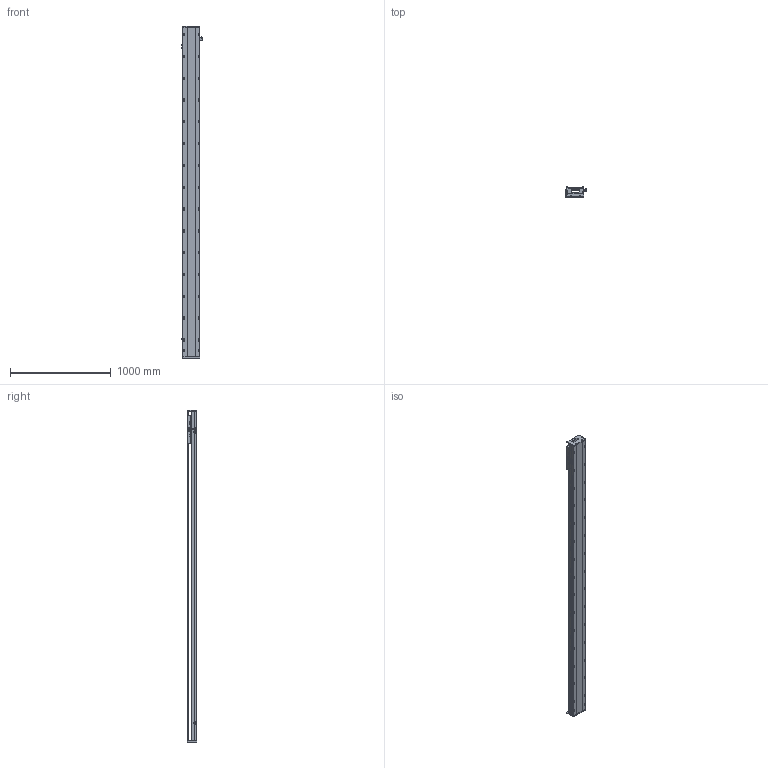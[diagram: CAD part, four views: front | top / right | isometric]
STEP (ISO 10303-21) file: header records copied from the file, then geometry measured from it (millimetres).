
FILE_DESCRIPTION (( 'STEP AP203' ), '1' );
FILE_NAME ('SKR17S-C2-S2908（简）.STEP', '2022-09-29T08:32:05', ( '' ), ( '' ), 'SwSTEP 2.0', 'SolidWorks 2018', '' );
FILE_SCHEMA (( 'CONFIG_CONTROL_DESIGN' ));
Length unit declared in the file: millimetre
Products named in the file (8): SKR17耜啣; EE-SX672; SKR17滑台-280L（简）; SIKO棠掑; 感应片（SKR12S-14S-17S）; 棠掑假蚾輸; SKR17底座-C2-S2908（简); SKR17S-C2-S2908（简）
Assembly tree (10 placements, depth 2):
  SKR17S-C2-S2908（简）
    SKR17底座-C2-S2908（简)
    SIKO棠掑
    EE-SX672  x3
    SKR17耜啣  x2
    棠掑假蚾輸
    SKR17滑台-280L（简）
    感应片（SKR12S-14S-17S）
Bounding box: 212.7 x 97 x 3288 mm (x, y, z)
Volume: 25228313.4 mm3; surface area: 3024295.8 mm2
Topology: 11 solids, 11 shells, 1576 faces, 4423 edges, 2837 vertices
Faces by surface type: cylinder 811, plane 607, cone 158
Entity records: 50467 total; most frequent: CARTESIAN_POINT 14271, ORIENTED_EDGE 7778, DIRECTION 6921, EDGE_CURVE 3889, VERTEX_POINT 2541, AXIS2_PLACEMENT_3D 2471, VECTOR 1979, LINE 1979
